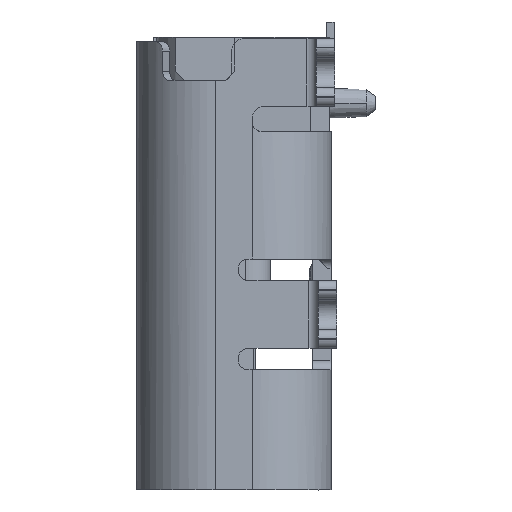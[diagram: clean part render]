
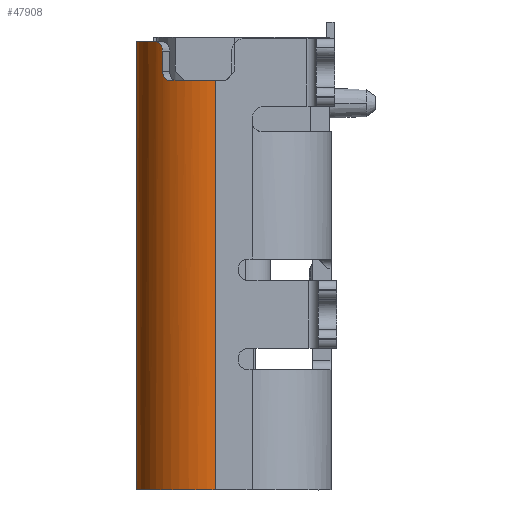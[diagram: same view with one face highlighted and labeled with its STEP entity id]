
A CAD part, left-side view. The second image highlights one B-rep face of the part: STEP entity #47908.
In plain terms, the highlighted cylindrical face has radius 1.28 mm (diameter 2.56 mm), a partial arc.
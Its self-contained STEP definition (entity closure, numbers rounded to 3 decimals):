
#214 = CARTESIAN_POINT ( 'NONE',  ( 3.357, 3.46, -5.783 ) ) ;
#254 = CARTESIAN_POINT ( 'NONE',  ( 3.469, 3.57, -5.783 ) ) ;
#379 = DIRECTION ( 'NONE',  ( 0., 0., 1. ) ) ;
#684 = CARTESIAN_POINT ( 'NONE',  ( 3.263, 3.341, -6.408 ) ) ;
#725 = CARTESIAN_POINT ( 'NONE',  ( 3.13, 3.1, -6.408 ) ) ;
#879 = VERTEX_POINT ( 'NONE', #17116 ) ;
#1206 = DIRECTION ( 'NONE',  ( 0., 0., -1. ) ) ;
#1358 = CARTESIAN_POINT ( 'NONE',  ( 3.165, 3.185, -6.408 ) ) ;
#1477 = CARTESIAN_POINT ( 'NONE',  ( 3.03, 2.605, -13.058 ) ) ;
#1760 = B_SPLINE_CURVE_WITH_KNOTS ( 'NONE', 3,
 ( #22400, #44409, #47842, #37326, #44641, #3836, #18748, #14367, #10926, #21697 ),
 .UNSPECIFIED., .F., .F.,
 ( 4, 2, 2, 2, 4 ),
 ( 0., 0.25, 0.5, 0.75, 1. ),
 .UNSPECIFIED. ) ;
#1829 = B_SPLINE_CURVE_WITH_KNOTS ( 'NONE', 3,
 ( #684, #33923, #15598, #18782, #11932, #37598 ),
 .UNSPECIFIED., .F., .F.,
 ( 4, 2, 4 ),
 ( 0., 0.5, 1. ),
 .UNSPECIFIED. ) ;
#1895 = EDGE_CURVE ( 'NONE', #21834, #9885, #17348, .T. ) ;
#2439 = CARTESIAN_POINT ( 'NONE',  ( 3.03, 2.605, -6.408 ) ) ;
#3836 = CARTESIAN_POINT ( 'NONE',  ( 3.286, 3.392, -13.058 ) ) ;
#3843 = VERTEX_POINT ( 'NONE', #13855 ) ;
#4871 = CARTESIAN_POINT ( 'NONE',  ( 4.31, 2.605, -5.783 ) ) ;
#7763 = CARTESIAN_POINT ( 'NONE',  ( 3.469, 3.57, -5.783 ) ) ;
#8028 = DIRECTION ( 'NONE',  ( 0., 0., 1. ) ) ;
#8057 = DIRECTION ( 'NONE',  ( -1., 0., 0. ) ) ;
#9885 = VERTEX_POINT ( 'NONE', #11423 ) ;
#9912 = VECTOR ( 'NONE', #379, 1000. ) ;
#10200 = VECTOR ( 'NONE', #18239, 1000. ) ;
#10679 = LINE ( 'NONE', #45513, #10200 ) ;
#10926 = CARTESIAN_POINT ( 'NONE',  ( 3.03, 2.773, -13.058 ) ) ;
#11423 = CARTESIAN_POINT ( 'NONE',  ( 4.31, 3.885, -5.783 ) ) ;
#11932 = CARTESIAN_POINT ( 'NONE',  ( 3.357, 3.46, -6.299 ) ) ;
#12314 = ORIENTED_EDGE ( 'NONE', *, *, #25176, .T. ) ;
#12692 = CYLINDRICAL_SURFACE ( 'NONE', #37025, 1.28 ) ;
#13269 = CARTESIAN_POINT ( 'NONE',  ( 3.357, 3.46, -5.933 ) ) ;
#13722 = VECTOR ( 'NONE', #8028, 1000. ) ;
#13739 = VERTEX_POINT ( 'NONE', #1477 ) ;
#13855 = CARTESIAN_POINT ( 'NONE',  ( 3.263, 3.341, -6.408 ) ) ;
#14367 = CARTESIAN_POINT ( 'NONE',  ( 3.063, 2.94, -13.058 ) ) ;
#15295 = ORIENTED_EDGE ( 'NONE', *, *, #20970, .T. ) ;
#15408 = FACE_OUTER_BOUND ( 'NONE', #25783, .T. ) ;
#15598 = CARTESIAN_POINT ( 'NONE',  ( 3.31, 3.405, -6.392 ) ) ;
#17116 = CARTESIAN_POINT ( 'NONE',  ( 3.055, 2.857, -6.408 ) ) ;
#17348 = B_SPLINE_CURVE_WITH_KNOTS ( 'NONE', 3,
 ( #254, #30326, #44735, #18833 ),
 .UNSPECIFIED., .F., .F.,
 ( 4, 4 ),
 ( 0., 1. ),
 .UNSPECIFIED. ) ;
#17955 = VERTEX_POINT ( 'NONE', #13269 ) ;
#18239 = DIRECTION ( 'NONE',  ( 0., 0., 1. ) ) ;
#18748 = CARTESIAN_POINT ( 'NONE',  ( 3.192, 3.25, -13.058 ) ) ;
#18782 = CARTESIAN_POINT ( 'NONE',  ( 3.347, 3.449, -6.334 ) ) ;
#18833 = CARTESIAN_POINT ( 'NONE',  ( 4.31, 3.885, -5.783 ) ) ;
#19711 = CARTESIAN_POINT ( 'NONE',  ( 3.366, 3.47, -5.858 ) ) ;
#20970 = EDGE_CURVE ( 'NONE', #46436, #17955, #33216, .T. ) ;
#21488 = CARTESIAN_POINT ( 'NONE',  ( 3.03, 2.689, -6.408 ) ) ;
#21697 = CARTESIAN_POINT ( 'NONE',  ( 3.03, 2.605, -13.058 ) ) ;
#21834 = VERTEX_POINT ( 'NONE', #36837 ) ;
#21850 = EDGE_CURVE ( 'NONE', #37436, #13739, #1760, .T. ) ;
#22400 = CARTESIAN_POINT ( 'NONE',  ( 4.31, 3.885, -13.058 ) ) ;
#24375 = EDGE_CURVE ( 'NONE', #879, #47937, #27249, .T. ) ;
#25176 = EDGE_CURVE ( 'NONE', #41784, #879, #46358, .T. ) ;
#25377 = ORIENTED_EDGE ( 'NONE', *, *, #44118, .T. ) ;
#25657 = EDGE_CURVE ( 'NONE', #13739, #41784, #10679, .T. ) ;
#25783 = EDGE_LOOP ( 'NONE', ( #32606, #45486, #44823, #48254, #35741, #12314, #41627, #25377, #41349, #15295 ) ) ;
#26806 = CARTESIAN_POINT ( 'NONE',  ( 3.408, 3.514, -5.798 ) ) ;
#27195 = B_SPLINE_CURVE_WITH_KNOTS ( 'NONE', 3,
 ( #28006, #1358, #31169, #42398 ),
 .UNSPECIFIED., .F., .F.,
 ( 4, 4 ),
 ( 0., 1. ),
 .UNSPECIFIED. ) ;
#27249 = B_SPLINE_CURVE_WITH_KNOTS ( 'NONE', 3,
 ( #36037, #39936, #39710, #36268 ),
 .UNSPECIFIED., .F., .F.,
 ( 4, 4 ),
 ( 0., 1. ),
 .UNSPECIFIED. ) ;
#28006 = CARTESIAN_POINT ( 'NONE',  ( 3.13, 3.1, -6.408 ) ) ;
#30326 = CARTESIAN_POINT ( 'NONE',  ( 3.699, 3.771, -5.783 ) ) ;
#30833 = CARTESIAN_POINT ( 'NONE',  ( 3.357, 3.46, -6.258 ) ) ;
#31169 = CARTESIAN_POINT ( 'NONE',  ( 3.21, 3.266, -6.408 ) ) ;
#31366 = EDGE_CURVE ( 'NONE', #3843, #46436, #1829, .T. ) ;
#32606 = ORIENTED_EDGE ( 'NONE', *, *, #47234, .T. ) ;
#33216 = LINE ( 'NONE', #214, #13722 ) ;
#33923 = CARTESIAN_POINT ( 'NONE',  ( 3.287, 3.375, -6.408 ) ) ;
#34112 = CARTESIAN_POINT ( 'NONE',  ( 4.31, 3.885, -9.42 ) ) ;
#35741 = ORIENTED_EDGE ( 'NONE', *, *, #25657, .T. ) ;
#36037 = CARTESIAN_POINT ( 'NONE',  ( 3.055, 2.857, -6.408 ) ) ;
#36268 = CARTESIAN_POINT ( 'NONE',  ( 3.13, 3.1, -6.408 ) ) ;
#36837 = CARTESIAN_POINT ( 'NONE',  ( 3.469, 3.57, -5.783 ) ) ;
#37025 = AXIS2_PLACEMENT_3D ( 'NONE', #4871, #1206, #8057 ) ;
#37326 = CARTESIAN_POINT ( 'NONE',  ( 3.665, 3.723, -13.058 ) ) ;
#37436 = VERTEX_POINT ( 'NONE', #41792 ) ;
#37471 = CARTESIAN_POINT ( 'NONE',  ( 3.03, 2.605, -6.408 ) ) ;
#37598 = CARTESIAN_POINT ( 'NONE',  ( 3.357, 3.46, -6.258 ) ) ;
#37805 = CARTESIAN_POINT ( 'NONE',  ( 3.357, 3.46, -5.933 ) ) ;
#38279 = CARTESIAN_POINT ( 'NONE',  ( 3.435, 3.54, -5.783 ) ) ;
#39710 = CARTESIAN_POINT ( 'NONE',  ( 3.097, 3.022, -6.408 ) ) ;
#39834 = CARTESIAN_POINT ( 'NONE',  ( 3.038, 2.774, -6.408 ) ) ;
#39936 = CARTESIAN_POINT ( 'NONE',  ( 3.072, 2.94, -6.408 ) ) ;
#40384 = B_SPLINE_CURVE_WITH_KNOTS ( 'NONE', 3,
 ( #37805, #41956, #19711, #26806, #38279, #7763 ),
 .UNSPECIFIED., .F., .F.,
 ( 4, 2, 4 ),
 ( 0., 0.5, 1. ),
 .UNSPECIFIED. ) ;
#40954 = LINE ( 'NONE', #34112, #9912 ) ;
#41349 = ORIENTED_EDGE ( 'NONE', *, *, #31366, .T. ) ;
#41627 = ORIENTED_EDGE ( 'NONE', *, *, #24375, .T. ) ;
#41784 = VERTEX_POINT ( 'NONE', #37471 ) ;
#41792 = CARTESIAN_POINT ( 'NONE',  ( 4.31, 3.885, -13.058 ) ) ;
#41956 = CARTESIAN_POINT ( 'NONE',  ( 3.358, 3.46, -5.892 ) ) ;
#42398 = CARTESIAN_POINT ( 'NONE',  ( 3.263, 3.341, -6.408 ) ) ;
#42849 = EDGE_CURVE ( 'NONE', #37436, #9885, #40954, .T. ) ;
#44118 = EDGE_CURVE ( 'NONE', #47937, #3843, #27195, .T. ) ;
#44409 = CARTESIAN_POINT ( 'NONE',  ( 4.142, 3.885, -13.058 ) ) ;
#44641 = CARTESIAN_POINT ( 'NONE',  ( 3.523, 3.629, -13.058 ) ) ;
#44735 = CARTESIAN_POINT ( 'NONE',  ( 4.004, 3.885, -5.783 ) ) ;
#44823 = ORIENTED_EDGE ( 'NONE', *, *, #42849, .F. ) ;
#45486 = ORIENTED_EDGE ( 'NONE', *, *, #1895, .T. ) ;
#45513 = CARTESIAN_POINT ( 'NONE',  ( 3.03, 2.605, -5.783 ) ) ;
#46358 = B_SPLINE_CURVE_WITH_KNOTS ( 'NONE', 3,
 ( #2439, #21488, #39834, #46909 ),
 .UNSPECIFIED., .F., .F.,
 ( 4, 4 ),
 ( 0., 1. ),
 .UNSPECIFIED. ) ;
#46436 = VERTEX_POINT ( 'NONE', #30833 ) ;
#46909 = CARTESIAN_POINT ( 'NONE',  ( 3.055, 2.857, -6.408 ) ) ;
#47234 = EDGE_CURVE ( 'NONE', #17955, #21834, #40384, .T. ) ;
#47842 = CARTESIAN_POINT ( 'NONE',  ( 3.975, 3.852, -13.058 ) ) ;
#47908 = ADVANCED_FACE ( 'NONE', ( #15408 ), #12692, .T. ) ;
#47937 = VERTEX_POINT ( 'NONE', #725 ) ;
#48254 = ORIENTED_EDGE ( 'NONE', *, *, #21850, .T. ) ;
